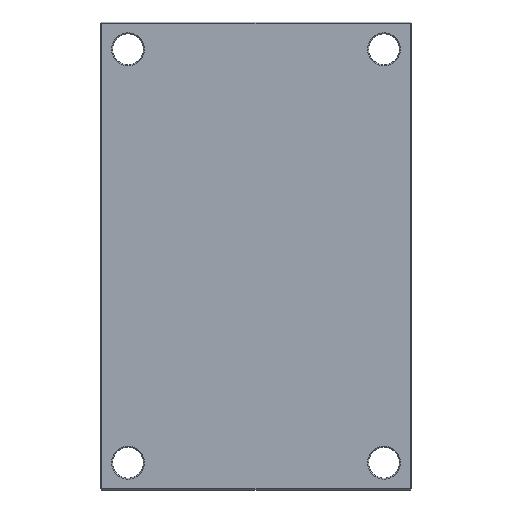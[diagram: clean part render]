
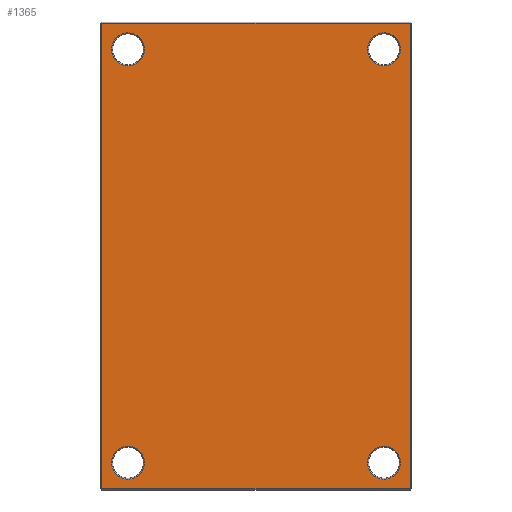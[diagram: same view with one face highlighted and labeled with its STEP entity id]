
A CAD part, front view. The second image highlights one B-rep face of the part: STEP entity #1365.
In plain terms, the highlighted planar face has unit normal (0, -1, 0).
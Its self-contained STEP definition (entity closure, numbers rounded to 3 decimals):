
#1 = ORIENTED_EDGE ( 'NONE', *, *, #1598, .T. ) ;
#24 = ORIENTED_EDGE ( 'NONE', *, *, #1683, .T. ) ;
#39 = FACE_BOUND ( 'NONE', #303, .T. ) ;
#49 = LINE ( 'NONE', #1395, #1749 ) ;
#75 = VERTEX_POINT ( 'NONE', #590 ) ;
#105 = FACE_BOUND ( 'NONE', #1622, .T. ) ;
#137 = ORIENTED_EDGE ( 'NONE', *, *, #1650, .T. ) ;
#142 = FACE_BOUND ( 'NONE', #265, .T. ) ;
#153 = ORIENTED_EDGE ( 'NONE', *, *, #1730, .T. ) ;
#167 = DIRECTION ( 'NONE',  ( -1., 0., 0. ) ) ;
#177 = CARTESIAN_POINT ( 'NONE',  ( 0., 0., 222. ) ) ;
#217 = FACE_BOUND ( 'NONE', #2074, .T. ) ;
#243 = CIRCLE ( 'NONE', #471, 15.7 ) ;
#254 = CARTESIAN_POINT ( 'NONE',  ( 147., 0., 222. ) ) ;
#265 = EDGE_LOOP ( 'NONE', ( #2108, #153 ) ) ;
#271 = AXIS2_PLACEMENT_3D ( 'NONE', #558, #592, #587 ) ;
#300 = DIRECTION ( 'NONE',  ( 0., 0., 1. ) ) ;
#301 = DIRECTION ( 'NONE',  ( 0., 1., 0. ) ) ;
#303 = EDGE_LOOP ( 'NONE', ( #1, #24 ) ) ;
#306 = CARTESIAN_POINT ( 'NONE',  ( -122., 0., -197. ) ) ;
#307 = DIRECTION ( 'NONE',  ( 0., 0., 1. ) ) ;
#325 = AXIS2_PLACEMENT_3D ( 'NONE', #594, #566, #307 ) ;
#440 = CARTESIAN_POINT ( 'NONE',  ( -122., 0., 181.3 ) ) ;
#468 = DIRECTION ( 'NONE',  ( 0., 0., 1. ) ) ;
#469 = DIRECTION ( 'NONE',  ( 0., 1., 0. ) ) ;
#471 = AXIS2_PLACEMENT_3D ( 'NONE', #306, #301, #300 ) ;
#474 = CARTESIAN_POINT ( 'NONE',  ( -147., 0., -222. ) ) ;
#475 = CARTESIAN_POINT ( 'NONE',  ( -122., 0., -197. ) ) ;
#485 = AXIS2_PLACEMENT_3D ( 'NONE', #475, #469, #468 ) ;
#490 = VERTEX_POINT ( 'NONE', #2121 ) ;
#508 = AXIS2_PLACEMENT_3D ( 'NONE', #851, #847, #844 ) ;
#517 = VECTOR ( 'NONE', #1889, 1000. ) ;
#535 = AXIS2_PLACEMENT_3D ( 'NONE', #1282, #1260, #1264 ) ;
#553 = AXIS2_PLACEMENT_3D ( 'NONE', #1480, #1471, #1465 ) ;
#558 = CARTESIAN_POINT ( 'NONE',  ( 122., 0., 197. ) ) ;
#566 = DIRECTION ( 'NONE',  ( 0., 1., 0. ) ) ;
#572 = AXIS2_PLACEMENT_3D ( 'NONE', #1856, #1839, #1834 ) ;
#587 = DIRECTION ( 'NONE',  ( 0., 0., 1. ) ) ;
#590 = CARTESIAN_POINT ( 'NONE',  ( -122., 0., -212.7 ) ) ;
#592 = DIRECTION ( 'NONE',  ( 0., 1., 0. ) ) ;
#594 = CARTESIAN_POINT ( 'NONE',  ( 122., 0., -197. ) ) ;
#619 = DIRECTION ( 'NONE',  ( 0., 0., 1. ) ) ;
#631 = DIRECTION ( 'NONE',  ( 0., 0., 1. ) ) ;
#660 = CIRCLE ( 'NONE', #485, 15.7 ) ;
#705 = CARTESIAN_POINT ( 'NONE',  ( 0., 0., 0. ) ) ;
#725 = PLANE ( 'NONE',  #887 ) ;
#741 = DIRECTION ( 'NONE',  ( 0., 1., 0. ) ) ;
#844 = DIRECTION ( 'NONE',  ( 0., 0., 1. ) ) ;
#847 = DIRECTION ( 'NONE',  ( 0., 1., 0. ) ) ;
#848 = VERTEX_POINT ( 'NONE', #2040 ) ;
#851 = CARTESIAN_POINT ( 'NONE',  ( -122., 0., 197. ) ) ;
#887 = AXIS2_PLACEMENT_3D ( 'NONE', #705, #741, #631 ) ;
#950 = VERTEX_POINT ( 'NONE', #1076 ) ;
#983 = LINE ( 'NONE', #177, #1023 ) ;
#1022 = CIRCLE ( 'NONE', #508, 15.7 ) ;
#1023 = VECTOR ( 'NONE', #167, 1000. ) ;
#1030 = DIRECTION ( 'NONE',  ( 1., 0., 0. ) ) ;
#1076 = CARTESIAN_POINT ( 'NONE',  ( 122., 0., 181.3 ) ) ;
#1114 = VERTEX_POINT ( 'NONE', #1767 ) ;
#1180 = CARTESIAN_POINT ( 'NONE',  ( 0., 0., -222. ) ) ;
#1191 = VERTEX_POINT ( 'NONE', #1515 ) ;
#1196 = EDGE_LOOP ( 'NONE', ( #2080, #2181, #2054, #1938 ) ) ;
#1256 = CIRCLE ( 'NONE', #535, 15.7 ) ;
#1260 = DIRECTION ( 'NONE',  ( 0., 1., 0. ) ) ;
#1264 = DIRECTION ( 'NONE',  ( 0., 0., 1. ) ) ;
#1281 = CIRCLE ( 'NONE', #553, 15.7 ) ;
#1282 = CARTESIAN_POINT ( 'NONE',  ( 122., 0., -197. ) ) ;
#1291 = VECTOR ( 'NONE', #1030, 1000. ) ;
#1345 = CIRCLE ( 'NONE', #271, 15.7 ) ;
#1350 = CARTESIAN_POINT ( 'NONE',  ( 147., 0., -222. ) ) ;
#1365 = ADVANCED_FACE ( 'NONE', ( #142, #217, #105, #39, #2087 ), #725, .F. ) ;
#1395 = CARTESIAN_POINT ( 'NONE',  ( 147., 0., 0. ) ) ;
#1448 = VERTEX_POINT ( 'NONE', #474 ) ;
#1461 = EDGE_CURVE ( 'NONE', #1958, #1900, #983, .T. ) ;
#1465 = DIRECTION ( 'NONE',  ( 0., 0., 1. ) ) ;
#1468 = CIRCLE ( 'NONE', #572, 15.7 ) ;
#1471 = DIRECTION ( 'NONE',  ( 0., 1., 0. ) ) ;
#1480 = CARTESIAN_POINT ( 'NONE',  ( 122., 0., 197. ) ) ;
#1515 = CARTESIAN_POINT ( 'NONE',  ( 122., 0., 212.7 ) ) ;
#1585 = CARTESIAN_POINT ( 'NONE',  ( 122., 0., -212.7 ) ) ;
#1598 = EDGE_CURVE ( 'NONE', #1723, #1114, #1468, .T. ) ;
#1622 = EDGE_LOOP ( 'NONE', ( #1935, #1848 ) ) ;
#1628 = VERTEX_POINT ( 'NONE', #1585 ) ;
#1630 = EDGE_CURVE ( 'NONE', #950, #1191, #1281, .T. ) ;
#1650 = EDGE_CURVE ( 'NONE', #1628, #848, #1256, .T. ) ;
#1683 = EDGE_CURVE ( 'NONE', #1114, #1723, #1022, .T. ) ;
#1713 = EDGE_CURVE ( 'NONE', #75, #490, #660, .T. ) ;
#1723 = VERTEX_POINT ( 'NONE', #440 ) ;
#1730 = EDGE_CURVE ( 'NONE', #490, #75, #243, .T. ) ;
#1749 = VECTOR ( 'NONE', #619, 1000. ) ;
#1767 = CARTESIAN_POINT ( 'NONE',  ( -122., 0., 212.7 ) ) ;
#1776 = LINE ( 'NONE', #1180, #1291 ) ;
#1834 = DIRECTION ( 'NONE',  ( 0., 0., 1. ) ) ;
#1837 = LINE ( 'NONE', #2072, #517 ) ;
#1839 = DIRECTION ( 'NONE',  ( 0., 1., 0. ) ) ;
#1848 = ORIENTED_EDGE ( 'NONE', *, *, #2103, .T. ) ;
#1856 = CARTESIAN_POINT ( 'NONE',  ( -122., 0., 197. ) ) ;
#1857 = CARTESIAN_POINT ( 'NONE',  ( -147., 0., 222. ) ) ;
#1862 = EDGE_CURVE ( 'NONE', #848, #1628, #2100, .T. ) ;
#1889 = DIRECTION ( 'NONE',  ( 0., 0., -1. ) ) ;
#1900 = VERTEX_POINT ( 'NONE', #1857 ) ;
#1933 = EDGE_CURVE ( 'NONE', #1943, #1958, #49, .T. ) ;
#1935 = ORIENTED_EDGE ( 'NONE', *, *, #1630, .T. ) ;
#1938 = ORIENTED_EDGE ( 'NONE', *, *, #2057, .T. ) ;
#1943 = VERTEX_POINT ( 'NONE', #1350 ) ;
#1958 = VERTEX_POINT ( 'NONE', #254 ) ;
#1962 = ORIENTED_EDGE ( 'NONE', *, *, #1862, .T. ) ;
#2040 = CARTESIAN_POINT ( 'NONE',  ( 122., 0., -181.3 ) ) ;
#2053 = EDGE_CURVE ( 'NONE', #1900, #1448, #1837, .T. ) ;
#2054 = ORIENTED_EDGE ( 'NONE', *, *, #2053, .T. ) ;
#2057 = EDGE_CURVE ( 'NONE', #1448, #1943, #1776, .T. ) ;
#2072 = CARTESIAN_POINT ( 'NONE',  ( -147., 0., 0. ) ) ;
#2074 = EDGE_LOOP ( 'NONE', ( #137, #1962 ) ) ;
#2080 = ORIENTED_EDGE ( 'NONE', *, *, #1933, .T. ) ;
#2087 = FACE_OUTER_BOUND ( 'NONE', #1196, .T. ) ;
#2100 = CIRCLE ( 'NONE', #325, 15.7 ) ;
#2103 = EDGE_CURVE ( 'NONE', #1191, #950, #1345, .T. ) ;
#2108 = ORIENTED_EDGE ( 'NONE', *, *, #1713, .T. ) ;
#2121 = CARTESIAN_POINT ( 'NONE',  ( -122., 0., -181.3 ) ) ;
#2181 = ORIENTED_EDGE ( 'NONE', *, *, #1461, .T. ) ;
